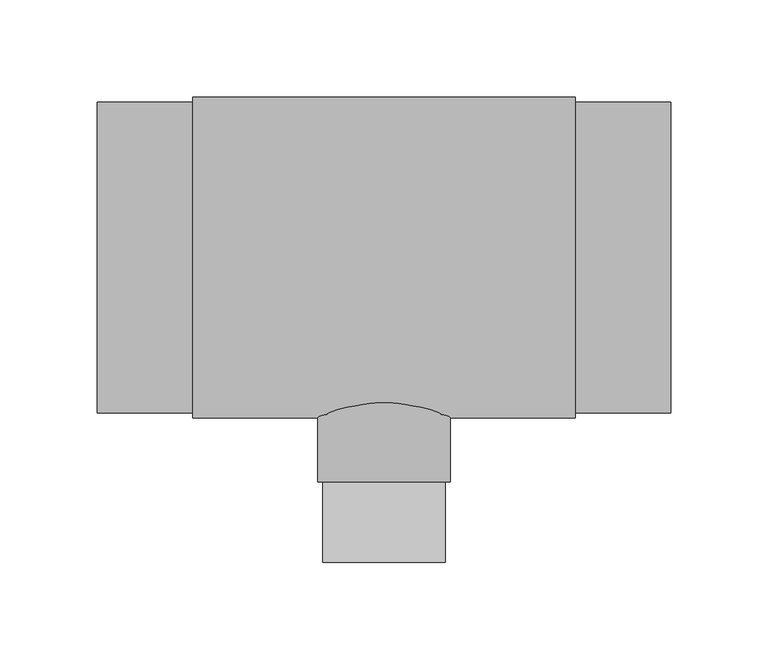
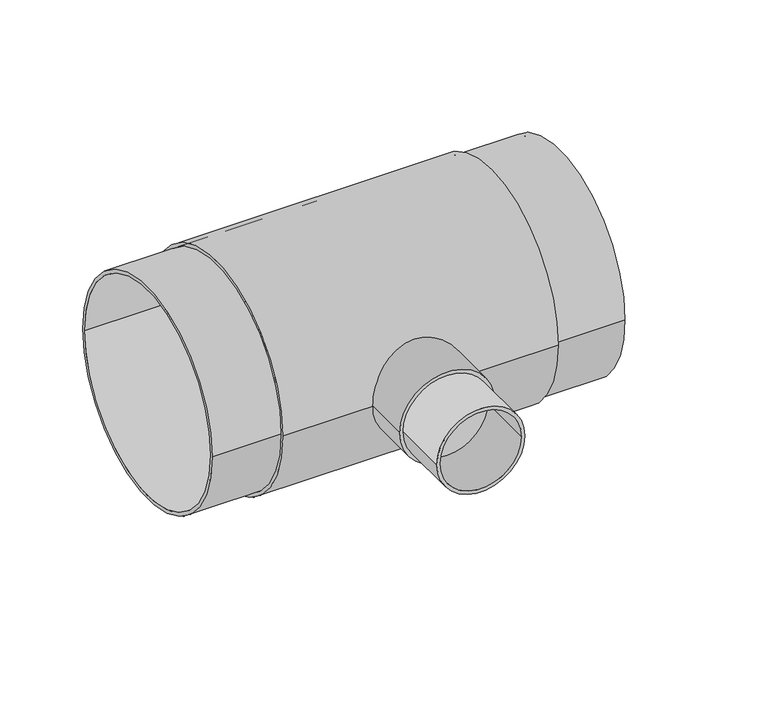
"""IFC4 building model written with IfcOpenShell, lengths in millimetres: pipe fitting geometry, EGB_VASEN_ PPR_Te a tope WXRB300_Te reducida a tope WXRB310 : Te a tope."""

from ifc_helpers import new_model, si_unit, point, frame, origin, origin_2d, place, context, project, spatial, circle_curve, trimmed, segment, composite_curve, outline, extrude, source, transform, mapped, element, save


def pipe_fitting_a41ccd8d(model_context):
    return source(origin(), model_context, "Body", "SweptSolid", [
        extrude(outline(composite_curve([segment(trimmed(circle_curve(origin_2d(), 31.5), [point((0.0, 31.5))], [point((0.0, -31.5))], False, "CARTESIAN"), True, "CONTINUOUS"), segment(trimmed(circle_curve(origin_2d(), 31.5), [point((0.0, -31.5))], [point((0.0, 31.5))], False, "CARTESIAN"), True, "CONTINUOUS")], self_intersect=False), holes=[composite_curve([segment(trimmed(circle_curve(origin_2d(), 29.0), [point((0.0, 29.0))], [point((0.0, -29.0))], True, "CARTESIAN"), True, "CONTINUOUS"), segment(trimmed(circle_curve(origin_2d(), 29.0), [point((0.0, -29.0))], [point((0.0, 29.0))], True, "CARTESIAN"), True, "CONTINUOUS")], self_intersect=False)]), frame((0.0, -157.0, 0.0), z_axis=(0.0, 1.0, 0.0), x_axis=(0.0, 0.0, 1.0)), (0.0, 0.0, 1.0), 41.5),
        extrude(outline(composite_curve([segment(trimmed(circle_curve(origin_2d(), 34.0), [point((0.0, 34.0))], [point((0.0, -34.0))], False, "CARTESIAN"), True, "CONTINUOUS"), segment(trimmed(circle_curve(origin_2d(), 34.0), [point((0.0, -34.0))], [point((0.0, 34.0))], False, "CARTESIAN"), True, "CONTINUOUS")], self_intersect=False)), frame((0.0, -115.5, 0.0), z_axis=(0.0, 1.0, 0.0), x_axis=(0.0, 0.0, 1.0)), (0.0, 0.0, 1.0), 115.5),
        extrude(outline(composite_curve([segment(trimmed(circle_curve(origin_2d(), 82.5), [point((-82.5, 0.0))], [point((82.5, 0.0))], False, "CARTESIAN"), True, "CONTINUOUS"), segment(trimmed(circle_curve(origin_2d(), 82.5), [point((82.5, 0.0))], [point((-82.5, 0.0))], False, "CARTESIAN"), True, "CONTINUOUS")], self_intersect=False), holes=[composite_curve([segment(trimmed(circle_curve(origin_2d(), 80.0), [point((-80.0, 0.0))], [point((80.0, 0.0))], True, "CARTESIAN"), True, "CONTINUOUS"), segment(trimmed(circle_curve(origin_2d(), 80.0), [point((80.0, 0.0))], [point((-80.0, 0.0))], True, "CARTESIAN"), True, "CONTINUOUS")], self_intersect=False)]), frame((-98.3333333, 0.0, 0.0), z_axis=(1.0, 0.0, 0.0), x_axis=(0.0, 1.0, 0.0)), (0.0, 0.0, 1.0), 196.6666667),
        extrude(outline(composite_curve([segment(trimmed(circle_curve(origin_2d(), 80.0), [point((-80.0, 0.0))], [point((80.0, 0.0))], False, "CARTESIAN"), True, "CONTINUOUS"), segment(trimmed(circle_curve(origin_2d(), 80.0), [point((80.0, 0.0))], [point((-80.0, 0.0))], False, "CARTESIAN"), True, "CONTINUOUS")], self_intersect=False), holes=[composite_curve([segment(trimmed(circle_curve(origin_2d(), 77.5), [point((-77.5, 0.0))], [point((77.5, 0.0))], True, "CARTESIAN"), True, "CONTINUOUS"), segment(trimmed(circle_curve(origin_2d(), 77.5), [point((77.5, 0.0))], [point((-77.5, 0.0))], True, "CARTESIAN"), True, "CONTINUOUS")], self_intersect=False)]), frame((-147.5, 0.0, 0.0), z_axis=(1.0, 0.0, 0.0), x_axis=(0.0, 1.0, 0.0)), (0.0, 0.0, 1.0), 295.0),
    ])


if __name__ == "__main__":
    model = new_model("IFC4")
    model_context = context("Model", 3, world=origin())
    ifc_project = project(units=[si_unit("LENGTHUNIT", "METRE", prefix="MILLI")], contexts=[model_context])
    site = spatial("IfcSite", under=ifc_project)
    building = spatial("IfcBuilding", under=site)
    placement = place(None, origin())
    pipe_fitting_shape = pipe_fitting_a41ccd8d(model_context)
    element("IfcPipeFitting", 1, ObjectType="EGB_VASEN_ PPR_Te a tope WXRB300_Te reducida a tope WXRB310 : Te a tope", at=placement, inside=building, context=model_context, shape_type="MappedRepresentation", body=[
        mapped(pipe_fitting_shape, transform((0.0, 0.0, 0.0), x_axis=(1.0, 0.0, 0.0), y_axis=(0.0, 1.0, 0.0), z_axis=(0.0, 0.0, 1.0))),
    ])
    save(model, "model.ifc")
